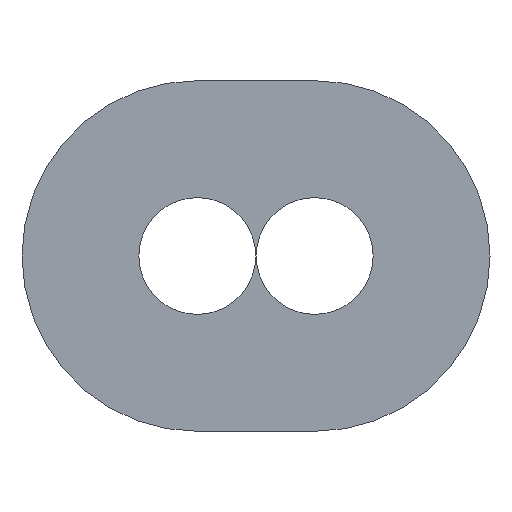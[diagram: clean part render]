
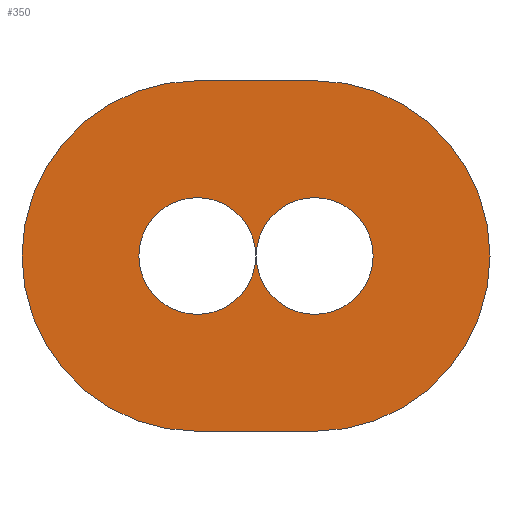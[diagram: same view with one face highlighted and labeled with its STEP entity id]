
A CAD part, front view. The second image highlights one B-rep face of the part: STEP entity #350.
In plain terms, the highlighted planar face has unit normal (0, -1, 0).
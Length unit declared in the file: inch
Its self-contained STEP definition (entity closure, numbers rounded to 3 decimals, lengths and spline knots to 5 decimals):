
#3 = EDGE_CURVE ( 'NONE', #233, #243, #333, .T. ) ;
#4 = EDGE_CURVE ( 'NONE', #234, #225, #291, .T. ) ;
#7 = EDGE_CURVE ( 'NONE', #225, #234, #301, .T. ) ;
#8 = EDGE_CURVE ( 'NONE', #244, #237, #300, .T. ) ;
#10 = EDGE_CURVE ( 'NONE', #315, #244, #311, .T. ) ;
#23 = AXIS2_PLACEMENT_3D ( 'NONE', #167, #146, #177 ) ;
#24 = EDGE_CURVE ( 'NONE', #243, #233, #297, .T. ) ;
#29 = AXIS2_PLACEMENT_3D ( 'NONE', #121, #133, #127 ) ;
#30 = AXIS2_PLACEMENT_3D ( 'NONE', #91, #112, #97 ) ;
#37 = AXIS2_PLACEMENT_3D ( 'NONE', #75, #82, #84 ) ;
#45 = AXIS2_PLACEMENT_3D ( 'NONE', #72, #79, #62 ) ;
#50 = AXIS2_PLACEMENT_3D ( 'NONE', #66, #67, #86 ) ;
#51 = AXIS2_PLACEMENT_3D ( 'NONE', #65, #88, #85 ) ;
#53 = EDGE_CURVE ( 'NONE', #237, #238, #308, .T. ) ;
#57 = EDGE_CURVE ( 'NONE', #238, #315, #318, .T. ) ;
#61 = DIRECTION ( 'NONE',  ( -1., 0., 0. ) ) ;
#62 = DIRECTION ( 'NONE',  ( 0., 0., 1. ) ) ;
#64 = CARTESIAN_POINT ( 'NONE',  ( -0.1255, 0., -0.375 ) ) ;
#65 = CARTESIAN_POINT ( 'NONE',  ( -0.1255, 0., 0. ) ) ;
#66 = CARTESIAN_POINT ( 'NONE',  ( 0.1255, 0., 0. ) ) ;
#67 = DIRECTION ( 'NONE',  ( 0., 1., 0. ) ) ;
#72 = CARTESIAN_POINT ( 'NONE',  ( -0.1255, 0., 0. ) ) ;
#75 = CARTESIAN_POINT ( 'NONE',  ( 0.1255, 0., 0. ) ) ;
#79 = DIRECTION ( 'NONE',  ( 0., 1., 0. ) ) ;
#82 = DIRECTION ( 'NONE',  ( 0., 1., 0. ) ) ;
#84 = DIRECTION ( 'NONE',  ( 0., 0., 1. ) ) ;
#85 = DIRECTION ( 'NONE',  ( 0., 0., 1. ) ) ;
#86 = DIRECTION ( 'NONE',  ( 0., 0., 1. ) ) ;
#88 = DIRECTION ( 'NONE',  ( 0., 1., 0. ) ) ;
#91 = CARTESIAN_POINT ( 'NONE',  ( -0.1255, 0., 0. ) ) ;
#94 = CARTESIAN_POINT ( 'NONE',  ( 0.1255, 0., -0.375 ) ) ;
#95 = CARTESIAN_POINT ( 'NONE',  ( 0.1255, 0., 0.375 ) ) ;
#97 = DIRECTION ( 'NONE',  ( 0., 0., 1. ) ) ;
#102 = CARTESIAN_POINT ( 'NONE',  ( 0.1255, 0., 0.125 ) ) ;
#106 = CARTESIAN_POINT ( 'NONE',  ( 0.1255, 0., -0.125 ) ) ;
#107 = DIRECTION ( 'NONE',  ( 1., 0., 0. ) ) ;
#111 = CARTESIAN_POINT ( 'NONE',  ( -0.1255, 0., 0.125 ) ) ;
#112 = DIRECTION ( 'NONE',  ( 0., 1., 0. ) ) ;
#115 = CARTESIAN_POINT ( 'NONE',  ( -0.1255, 0., -0.125 ) ) ;
#117 = CARTESIAN_POINT ( 'NONE',  ( -0.1255, 0., -0.375 ) ) ;
#121 = CARTESIAN_POINT ( 'NONE',  ( 0.1255, 0., 0. ) ) ;
#123 = CARTESIAN_POINT ( 'NONE',  ( -0.1255, 0., 0.375 ) ) ;
#127 = DIRECTION ( 'NONE',  ( 0., 0., 1. ) ) ;
#128 = CARTESIAN_POINT ( 'NONE',  ( -0.1255, 0., 0.375 ) ) ;
#133 = DIRECTION ( 'NONE',  ( 0., 1., 0. ) ) ;
#146 = DIRECTION ( 'NONE',  ( 0., 1., 0. ) ) ;
#167 = CARTESIAN_POINT ( 'NONE',  ( -0.1255, 0., 0. ) ) ;
#169 = PLANE ( 'NONE',  #23 ) ;
#177 = DIRECTION ( 'NONE',  ( 0., 0., 1. ) ) ;
#198 = EDGE_LOOP ( 'NONE', ( #257, #228 ) ) ;
#202 = EDGE_LOOP ( 'NONE', ( #269, #266 ) ) ;
#208 = EDGE_LOOP ( 'NONE', ( #235, #254, #229, #261 ) ) ;
#225 = VERTEX_POINT ( 'NONE', #102 ) ;
#228 = ORIENTED_EDGE ( 'NONE', *, *, #24, .T. ) ;
#229 = ORIENTED_EDGE ( 'NONE', *, *, #57, .F. ) ;
#233 = VERTEX_POINT ( 'NONE', #115 ) ;
#234 = VERTEX_POINT ( 'NONE', #106 ) ;
#235 = ORIENTED_EDGE ( 'NONE', *, *, #8, .F. ) ;
#237 = VERTEX_POINT ( 'NONE', #128 ) ;
#238 = VERTEX_POINT ( 'NONE', #95 ) ;
#243 = VERTEX_POINT ( 'NONE', #111 ) ;
#244 = VERTEX_POINT ( 'NONE', #117 ) ;
#254 = ORIENTED_EDGE ( 'NONE', *, *, #10, .F. ) ;
#257 = ORIENTED_EDGE ( 'NONE', *, *, #3, .T. ) ;
#261 = ORIENTED_EDGE ( 'NONE', *, *, #53, .F. ) ;
#266 = ORIENTED_EDGE ( 'NONE', *, *, #7, .T. ) ;
#269 = ORIENTED_EDGE ( 'NONE', *, *, #4, .T. ) ;
#276 = FACE_BOUND ( 'NONE', #202, .T. ) ;
#286 = FACE_BOUND ( 'NONE', #198, .T. ) ;
#289 = VECTOR ( 'NONE', #61, 39.37008 ) ;
#291 = CIRCLE ( 'NONE', #50, 0.125 ) ;
#297 = CIRCLE ( 'NONE', #30, 0.125 ) ;
#300 = CIRCLE ( 'NONE', #51, 0.375 ) ;
#301 = CIRCLE ( 'NONE', #37, 0.125 ) ;
#308 = LINE ( 'NONE', #123, #312 ) ;
#311 = LINE ( 'NONE', #64, #289 ) ;
#312 = VECTOR ( 'NONE', #107, 39.37008 ) ;
#315 = VERTEX_POINT ( 'NONE', #94 ) ;
#318 = CIRCLE ( 'NONE', #29, 0.375 ) ;
#324 = FACE_OUTER_BOUND ( 'NONE', #208, .T. ) ;
#333 = CIRCLE ( 'NONE', #45, 0.125 ) ;
#350 = ADVANCED_FACE ( 'NONE', ( #286, #324, #276 ), #169, .F. ) ;
